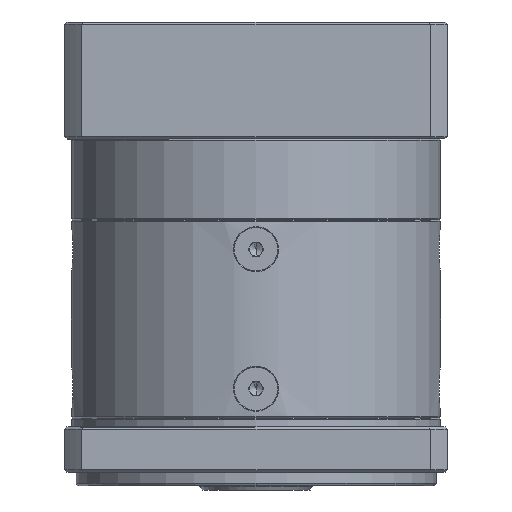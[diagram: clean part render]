
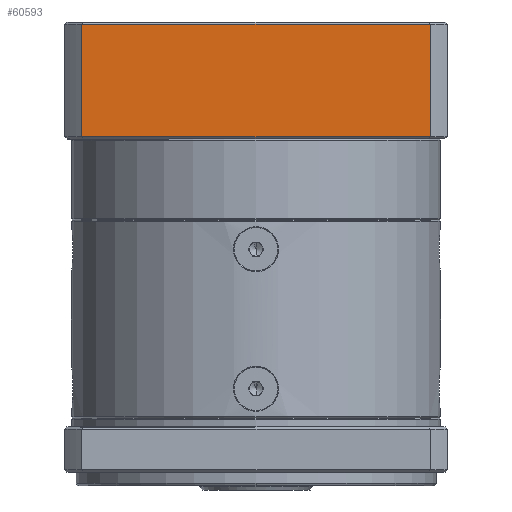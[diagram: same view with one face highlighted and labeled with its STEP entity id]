
A CAD part, front view. The second image highlights one B-rep face of the part: STEP entity #60593.
In plain terms, the highlighted planar face has unit normal (0, -1, 0).
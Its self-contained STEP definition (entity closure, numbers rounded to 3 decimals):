
#1084 = LINE ( 'NONE', #109454, #21192 ) ;
#5729 = VERTEX_POINT ( 'NONE', #93593 ) ;
#9247 = VERTEX_POINT ( 'NONE', #96829 ) ;
#19784 = FACE_OUTER_BOUND ( 'NONE', #52080, .T. ) ;
#21192 = VECTOR ( 'NONE', #67020, 1000. ) ;
#23193 = DIRECTION ( 'NONE',  ( 0., 0., 1. ) ) ;
#31770 = CARTESIAN_POINT ( 'NONE',  ( -126.216, -8.696, 21.7 ) ) ;
#32162 = EDGE_CURVE ( 'NONE', #5729, #54292, #86601, .T. ) ;
#40758 = EDGE_CURVE ( 'NONE', #5729, #9247, #106102, .T. ) ;
#41038 = VECTOR ( 'NONE', #73975, 1000. ) ;
#41964 = DIRECTION ( 'NONE',  ( 0., 1., 0. ) ) ;
#44358 = EDGE_CURVE ( 'NONE', #65943, #9247, #1084, .T. ) ;
#44596 = CARTESIAN_POINT ( 'NONE',  ( -126.216, -8.696, 21.2 ) ) ;
#48270 = ORIENTED_EDGE ( 'NONE', *, *, #92547, .F. ) ;
#52080 = EDGE_LOOP ( 'NONE', ( #80316, #52438, #48270, #109140 ) ) ;
#52438 = ORIENTED_EDGE ( 'NONE', *, *, #44358, .F. ) ;
#54292 = VERTEX_POINT ( 'NONE', #44596 ) ;
#57567 = LINE ( 'NONE', #93451, #102786 ) ;
#60593 = ADVANCED_FACE ( 'NONE', ( #19784 ), #75118, .F. ) ;
#64804 = CARTESIAN_POINT ( 'NONE',  ( -48.756, -8.696, -3.8 ) ) ;
#65943 = VERTEX_POINT ( 'NONE', #108119 ) ;
#67020 = DIRECTION ( 'NONE',  ( 0., 0., -1. ) ) ;
#73975 = DIRECTION ( 'NONE',  ( 1., 0., 0. ) ) ;
#75118 = PLANE ( 'NONE',  #80596 ) ;
#80316 = ORIENTED_EDGE ( 'NONE', *, *, #40758, .T. ) ;
#80596 = AXIS2_PLACEMENT_3D ( 'NONE', #92701, #41964, #101308 ) ;
#86601 = LINE ( 'NONE', #31770, #109315 ) ;
#92547 = EDGE_CURVE ( 'NONE', #54292, #65943, #57567, .T. ) ;
#92701 = CARTESIAN_POINT ( 'NONE',  ( -48.756, -8.696, 21.7 ) ) ;
#93451 = CARTESIAN_POINT ( 'NONE',  ( -48.756, -8.696, 21.2 ) ) ;
#93593 = CARTESIAN_POINT ( 'NONE',  ( -126.216, -8.696, -3.8 ) ) ;
#96829 = CARTESIAN_POINT ( 'NONE',  ( -48.756, -8.696, -3.8 ) ) ;
#101308 = DIRECTION ( 'NONE',  ( -1., 0., 0. ) ) ;
#101717 = DIRECTION ( 'NONE',  ( 1., 0., 0. ) ) ;
#102786 = VECTOR ( 'NONE', #101717, 1000. ) ;
#106102 = LINE ( 'NONE', #64804, #41038 ) ;
#108119 = CARTESIAN_POINT ( 'NONE',  ( -48.756, -8.696, 21.2 ) ) ;
#109140 = ORIENTED_EDGE ( 'NONE', *, *, #32162, .F. ) ;
#109315 = VECTOR ( 'NONE', #23193, 1000. ) ;
#109454 = CARTESIAN_POINT ( 'NONE',  ( -48.756, -8.696, 21.7 ) ) ;
